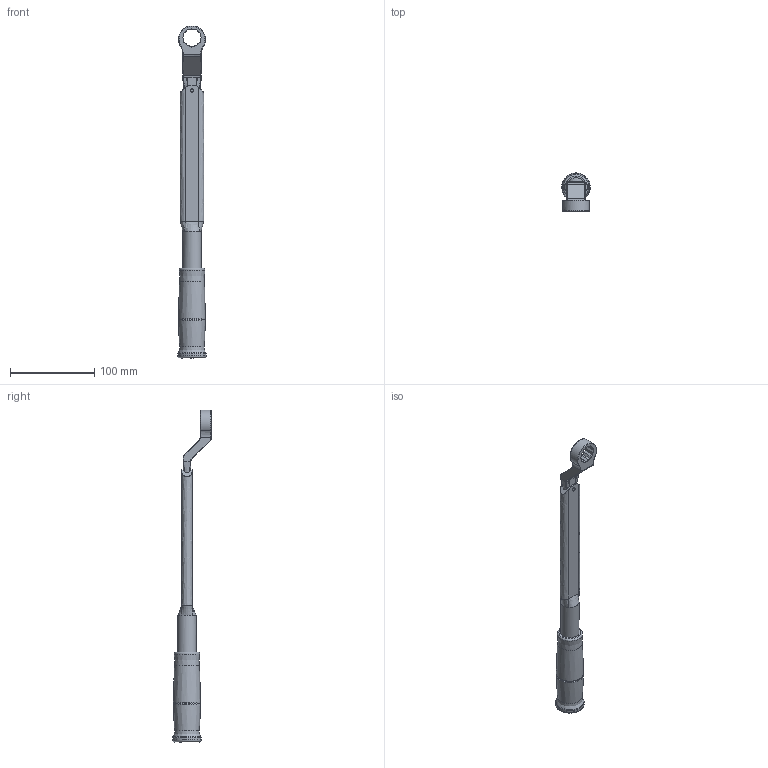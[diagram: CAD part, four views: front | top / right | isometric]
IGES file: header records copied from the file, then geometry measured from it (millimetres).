
Global section: file name: RSP120N2X19; native system: Autodesk Inventor 2017; preprocessor: unknown; author: q603; date: 20170208.080315; units: millimetre
Bounding box: 34 x 45.97 x 393.98 mm (x, y, z)
Volume: 165942.6 mm3; surface area: 32653.6 mm2
Topology: 1 solids, 1 shells, 132 faces, 360 edges, 234 vertices
Faces by surface type: bspline 132
